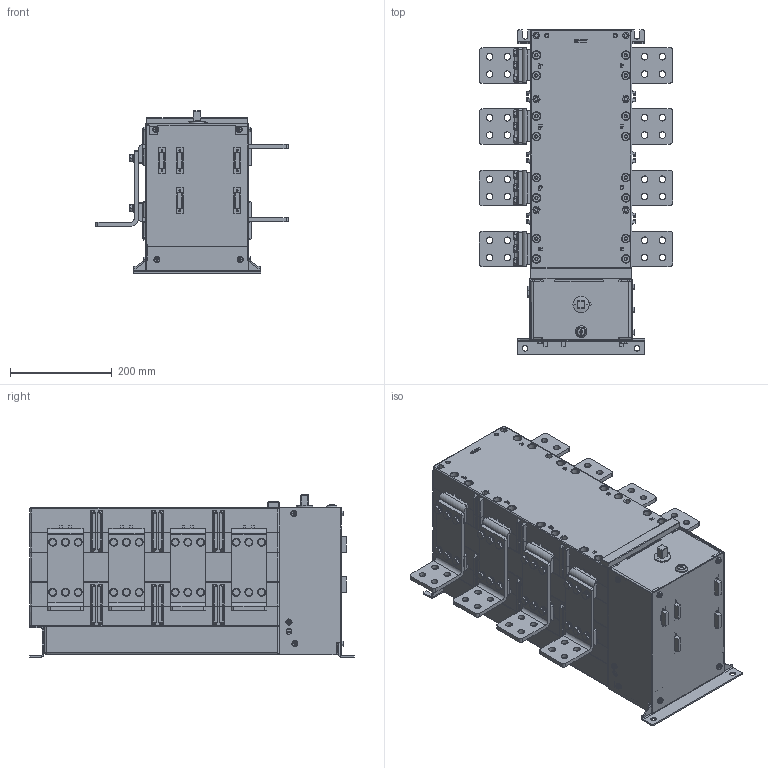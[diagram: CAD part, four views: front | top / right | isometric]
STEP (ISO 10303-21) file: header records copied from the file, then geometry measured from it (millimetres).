
FILE_DESCRIPTION((''),'2;1');
FILE_NAME('NH40-1250-4SZ_ASM','2020-11-03T',('shift'),(''),'CREO PARAMETRIC BY PTC INC, 2014500','CREO PARAMETRIC BY PTC INC, 2014500','');
FILE_SCHEMA(('AUTOMOTIVE_DESIGN { 1 0 10303 214 1 1 1 1 }'));
Products named in the file (29): MSBR9_1_1_1_4_1_1_1_1; MSBR1_1_1_2_1_1_1_1; MSBR10_1_1_2_1_1_1_1; MSBR11_1_1_2_1_1_1_1; MSBR12_1_1_1_1_1_1_1; MSBR13_1_1_2_1_1_1_1; MSBR8_1_1_3_1_1_1_1; ADMI0FB0CDB70BN3_ASM_1_ASM_1__1_ASM; 1000A_ASM_1_ASM_1_ASM_1_1_ASM_1_ASM; 1000A_ASM_ASM_1_ASM_1_1_ASM_1_A_ASM; JINGCHUTOU2_4_1_1_1_1; SHUCHULIANJIEBAN_2_1_1_2_1; JIAOJIA_1_1_1_1_1; JIGOUJIAO1000_8_1_1_1_1; JIGOUZUISHANGMMIANBAN_3_1_1_1_1; CEBAN_1_1_1_1_1; CEBAN1_8_1_1_1_1; SHUCHUPAILIANJIELUOSI_1_1_1_1_1; JIEXIANDUANZI_3_1_1_1_1; SUO_1_1_1_1_1; JIGOUGUDINGLUOSI_1_1_1_1_1; HONGZHISHI_3_1_1_1_1; PRT0002_3_1_1_1_1; NH40-1000-4SZ_ASM_10_1_ASM_1_AS_ASM; 1250-1_1_1_1; NH40-1250-4SZ_ASM_ASM_1_ASM_1_A_ASM; NH40-1250-4SZ20200919_ASM_1_ASM_ASM; NH40-1250-4SZ20200925_ASM_1_ASM; NH40-1250-4SZ_ASM
Assembly tree (81 placements, depth 9):
  NH40-1250-4SZ_ASM
    NH40-1250-4SZ20200925_ASM_1_ASM
      NH40-1250-4SZ20200919_ASM_1_ASM_ASM
        NH40-1250-4SZ_ASM_ASM_1_ASM_1_A_ASM
          NH40-1000-4SZ_ASM_10_1_ASM_1_AS_ASM
            1000A_ASM_ASM_1_ASM_1_1_ASM_1_A_ASM
              1000A_ASM_1_ASM_1_ASM_1_1_ASM_1_ASM
                ADMI0FB0CDB70BN3_ASM_1_ASM_1__1_ASM
                  MSBR9_1_1_1_4_1_1_1_1
                  MSBR1_1_1_2_1_1_1_1
                  MSBR10_1_1_2_1_1_1_1
                  MSBR11_1_1_2_1_1_1_1
                  MSBR12_1_1_1_1_1_1_1
                  MSBR13_1_1_2_1_1_1_1
                  MSBR8_1_1_3_1_1_1_1
            JINGCHUTOU2_4_1_1_1_1  x8
            SHUCHULIANJIEBAN_2_1_1_2_1  x4
            JIAOJIA_1_1_1_1_1
            JIGOUJIAO1000_8_1_1_1_1
            JIGOUZUISHANGMMIANBAN_3_1_1_1_1
            CEBAN_1_1_1_1_1
            CEBAN1_8_1_1_1_1
            SHUCHUPAILIANJIELUOSI_1_1_1_1_1  x24
            JIEXIANDUANZI_3_1_1_1_1  x5
            SUO_1_1_1_1_1
            JIGOUGUDINGLUOSI_1_1_1_1_1  x10
            HONGZHISHI_3_1_1_1_1
            PRT0002_3_1_1_1_1
          1250-1_1_1_1  x8
Bounding box: 380 x 639.02 x 319.04 mm (x, y, z)
Volume: 29407241.3 mm3; surface area: 2736237.1 mm2
Topology: 74 solids, 96 shells, 4609 faces, 11590 edges, 7418 vertices
Faces by surface type: plane 2423, cylinder 1671, bspline 258, torus 90, cone 70, sphere 60, extrusion 37
Entity records: 136889 total; most frequent: CARTESIAN_POINT 40082, ORIENTED_EDGE 15860, DIRECTION 14643, EDGE_CURVE 7930, VECTOR 5153, LINE 5116, VERTEX_POINT 5038, AXIS2_PLACEMENT_3D 4745
